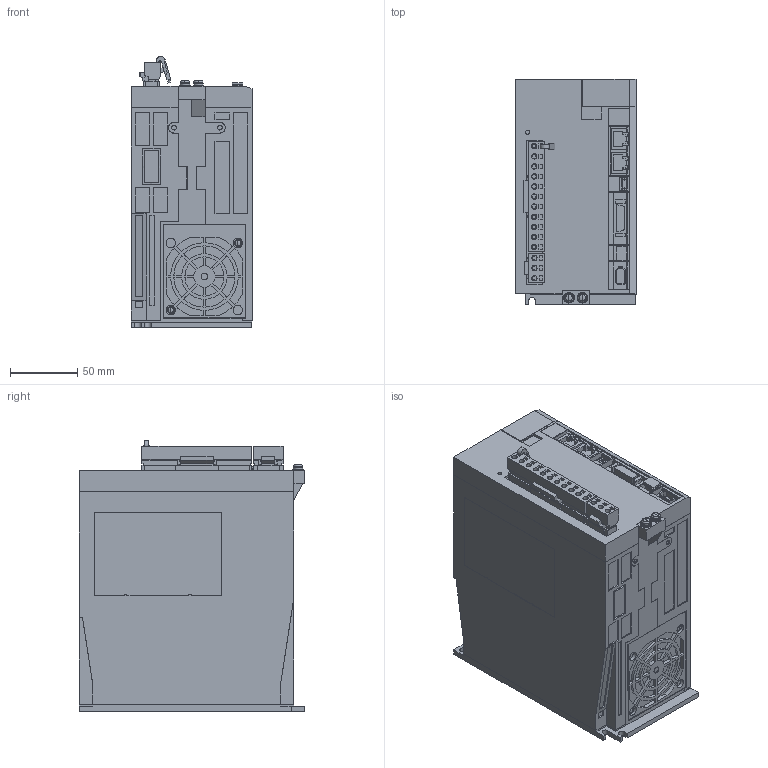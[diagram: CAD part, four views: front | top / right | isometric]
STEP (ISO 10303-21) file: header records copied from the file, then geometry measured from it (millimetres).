
FILE_DESCRIPTION((''),'2;1');
FILE_NAME('SGDXS-120A40A_ASM','2022-02-24T',('liubing_shen'),('Yaskawa Electric (Shenyang) Co.,Ltd'),'PRO/ENGINEER BY PARAMETRIC TECHNOLOGY CORPORATION, 2017170','PRO/ENGINEER BY PARAMETRIC TECHNOLOGY CORPORATION, 2017170','');
FILE_SCHEMA(('AUTOMOTIVE_DESIGN { 1 0 10303 214 1 1 1 1 }'));
Products named in the file (9): SGDXS_120A40A_BASE2; SGDXS_120A40A_CONNECTOR_1_1_2; SGDXS_120A40A_CONNECTOR_2_1_2; SGDXS_120A40A_CONNECTOR_3_1_2; SGDXS_120A40A_COVER2_1_2; SGDXS_120A40A_COVER3_1_AF0_2; SGDXS_120A40A_COVER_1_3; SGDXS_120A40A_PIN_1_2_1; SGDXS-120A40A_ASM
Assembly tree (8 placements, depth 2):
  SGDXS-120A40A_ASM
    SGDXS_120A40A_BASE2
    SGDXS_120A40A_CONNECTOR_1_1_2
    SGDXS_120A40A_CONNECTOR_2_1_2
    SGDXS_120A40A_CONNECTOR_3_1_2
    SGDXS_120A40A_COVER2_1_2
    SGDXS_120A40A_COVER3_1_AF0_2
    SGDXS_120A40A_COVER_1_3
    SGDXS_120A40A_PIN_1_2_1
Bounding box: 90.5 x 168 x 202.07 mm (x, y, z)
Volume: 2567781.4 mm3; surface area: 161282.3 mm2
Topology: 8 solids, 8 shells, 1885 faces, 5147 edges, 3405 vertices
Faces by surface type: plane 1680, cylinder 183, torus 8, sphere 8, cone 4, bspline 2
Entity records: 76597 total; most frequent: CARTESIAN_POINT 10517, ORIENTED_EDGE 10278, DIRECTION 9397, EDGE_CURVE 5139, VECTOR 4681, LINE 4681, VERTEX_POINT 3405, PRESENTATION_STYLE_ASSIGNMENT 2751
